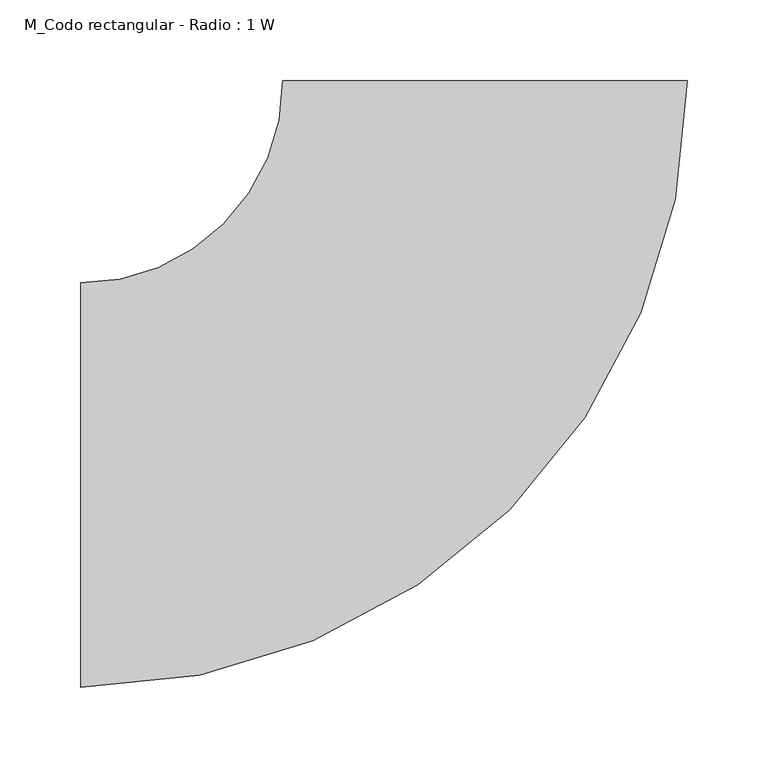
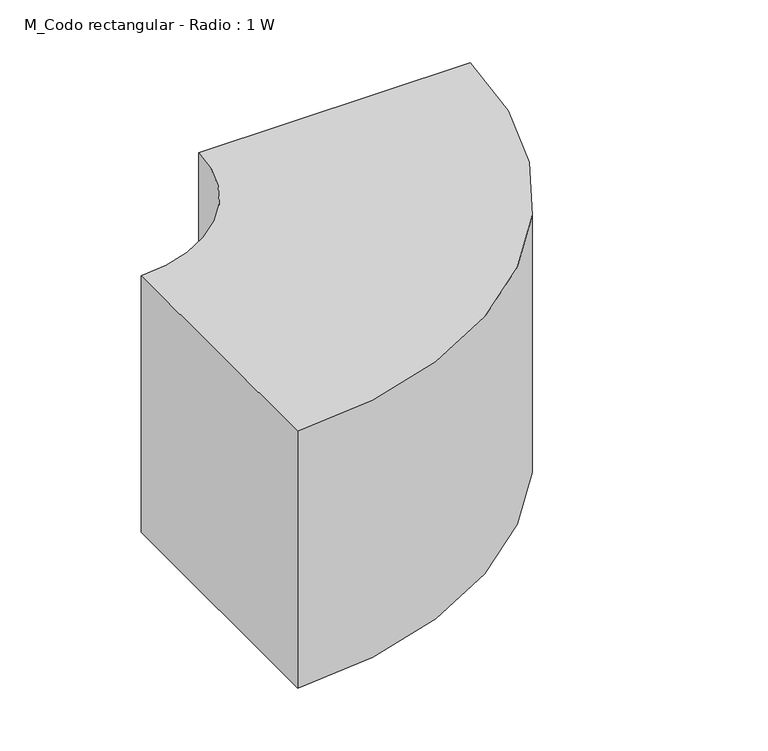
"""IFC4 building model written with IfcOpenShell, lengths in millimetres: duct fitting geometry, M_Codo rectangular - Radio : 1 W."""

from ifc_helpers import new_model, si_unit, point, frame, frame_2d, origin, place, context, project, spatial, polyline, circle_curve, trimmed, segment, composite_curve, outline, extrude, source, transform, mapped, element, save


def m_codo_rectangular_radio_1_w_ae326d75(model_context):
    return source(origin(), model_context, "Body", "SweptSolid", [
        extrude(outline(composite_curve([segment(trimmed(circle_curve(frame_2d((-250.0, 250.0)), 375.0), [point((125.0, 250.0))], [point((-250.0, -125.0))], False, "CARTESIAN"), True, "CONTINUOUS"), segment(polyline([(-250.0, -125.0), (-250.0, 125.0)]), True, "CONTINUOUS"), segment(trimmed(circle_curve(frame_2d((-250.0, 250.0)), 125.0), [point((-250.0, 125.0))], [point((-125.0, 250.0))], True, "CARTESIAN"), True, "CONTINUOUS"), segment(polyline([(-125.0, 250.0), (125.0, 250.0)]), True, "CONTINUOUS")], self_intersect=False)), frame((0.0, 0.0, -125.0), z_axis=(0.0, 0.0, 1.0), x_axis=(1.0, 0.0, 0.0)), (0.0, 0.0, 1.0), 250.0),
    ])


if __name__ == "__main__":
    model = new_model("IFC4")
    model_context = context("Model", 3, world=origin())
    ifc_project = project(units=[si_unit("LENGTHUNIT", "METRE", prefix="MILLI")], contexts=[model_context])
    site = spatial("IfcSite", under=ifc_project)
    building = spatial("IfcBuilding", under=site)
    placement = place(None, origin())
    m_codo_rectangular_radio_1_w_shape = m_codo_rectangular_radio_1_w_ae326d75(model_context)
    element("IfcDuctFitting", 1, ObjectType="M_Codo rectangular - Radio : 1 W", at=placement, inside=building, context=model_context, shape_type="MappedRepresentation", body=[
        mapped(m_codo_rectangular_radio_1_w_shape, transform((0.0, 0.0, 0.0), x_axis=(1.0, 0.0, 0.0), y_axis=(0.0, 1.0, 0.0), z_axis=(0.0, 0.0, 1.0))),
    ])
    save(model, "model.ifc")
